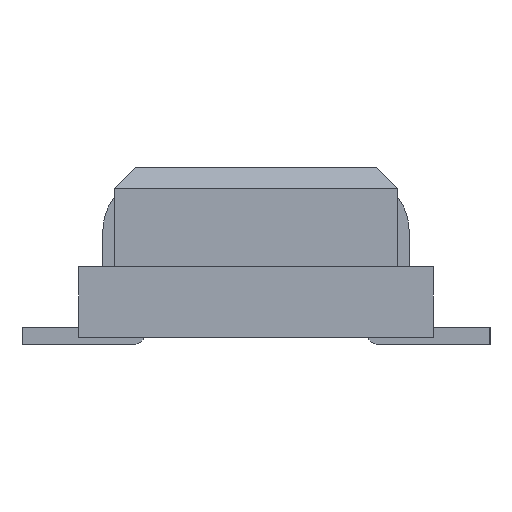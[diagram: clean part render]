
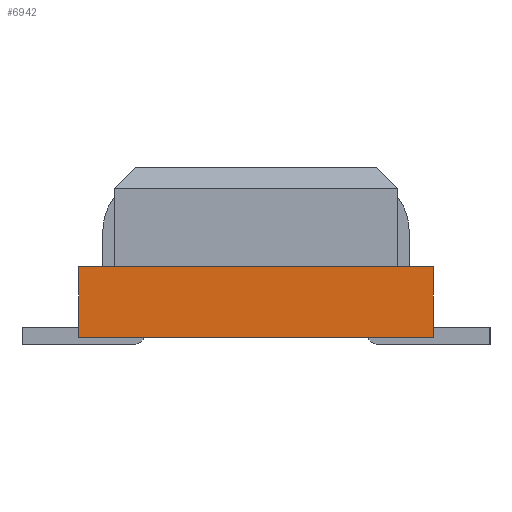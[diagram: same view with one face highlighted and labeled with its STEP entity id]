
A CAD part, left-side view. The second image highlights one B-rep face of the part: STEP entity #6942.
In plain terms, the highlighted planar face has unit normal (-1, 0, 0).
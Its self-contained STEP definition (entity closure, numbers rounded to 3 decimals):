
#870=DIRECTION('',(0.,0.,1.));
#871=VECTOR('',#870,0.5);
#872=CARTESIAN_POINT('',(-1.75,-1.25,0.));
#873=LINE('',#872,#871);
#882=DIRECTION('',(0.,-1.,0.));
#883=VECTOR('',#882,2.5);
#884=CARTESIAN_POINT('',(-1.75,1.25,0.));
#885=LINE('',#884,#883);
#898=DIRECTION('',(0.,0.,-1.));
#899=VECTOR('',#898,0.5);
#900=CARTESIAN_POINT('',(-1.75,1.25,0.5));
#901=LINE('',#900,#899);
#910=DIRECTION('',(0.,1.,0.));
#911=VECTOR('',#910,2.5);
#912=CARTESIAN_POINT('',(-1.75,-1.25,0.5));
#913=LINE('',#912,#911);
#4834=CARTESIAN_POINT('',(-1.75,-1.25,0.5));
#4835=VERTEX_POINT('',#4834);
#4836=CARTESIAN_POINT('',(-1.75,1.25,0.5));
#4837=VERTEX_POINT('',#4836);
#4846=CARTESIAN_POINT('',(-1.75,1.25,0.));
#4847=CARTESIAN_POINT('',(-1.75,-1.25,0.));
#4848=VERTEX_POINT('',#4846);
#4849=VERTEX_POINT('',#4847);
#6931=CARTESIAN_POINT('',(-1.75,0.,0.25));
#6932=DIRECTION('',(1.,0.,0.));
#6933=DIRECTION('',(0.,1.,0.));
#6934=AXIS2_PLACEMENT_3D('',#6931,#6932,#6933);
#6935=PLANE('',#6934);
#6936=ORIENTED_EDGE('',*,*,#6902,.F.);
#6937=ORIENTED_EDGE('',*,*,#6924,.F.);
#6938=ORIENTED_EDGE('',*,*,#6863,.F.);
#6939=ORIENTED_EDGE('',*,*,#6888,.F.);
#6940=EDGE_LOOP('',(#6936,#6937,#6938,#6939));
#6941=FACE_OUTER_BOUND('',#6940,.F.);
#6942=ADVANCED_FACE('',(#6941),#6935,.F.);
#6863=EDGE_CURVE('',#4835,#4837,#913,.T.);
#6888=EDGE_CURVE('',#4849,#4835,#873,.T.);
#6902=EDGE_CURVE('',#4848,#4849,#885,.T.);
#6924=EDGE_CURVE('',#4837,#4848,#901,.T.);
